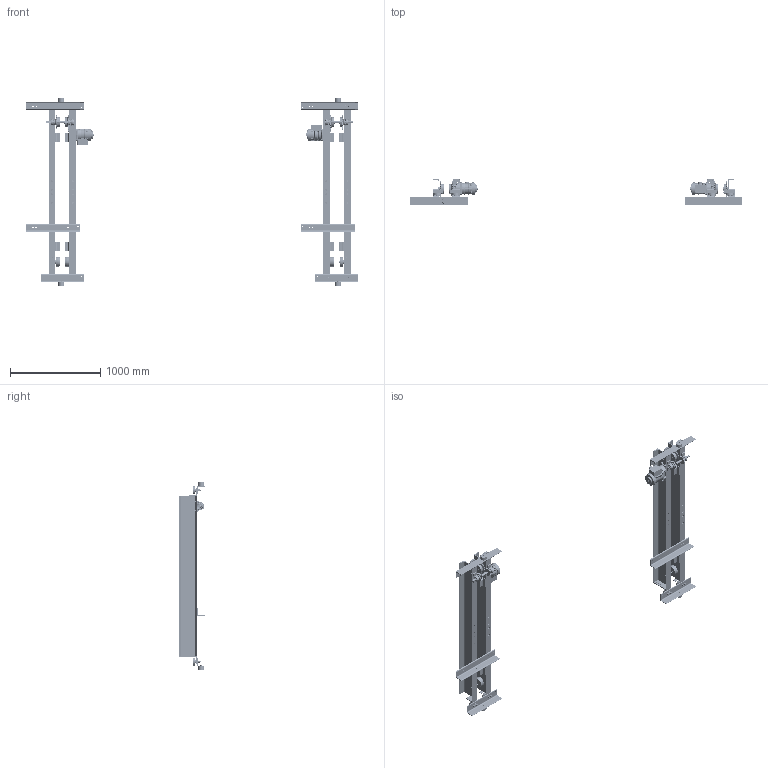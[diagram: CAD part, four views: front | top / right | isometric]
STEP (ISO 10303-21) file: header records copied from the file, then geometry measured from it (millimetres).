
FILE_DESCRIPTION (( 'STEP AP214' ), '1' );
FILE_NAME ('UML-3-0250.STEP', '2026-08-11T15:37:10', ( '' ), ( '' ), 'SwSTEP 2.0', 'SolidWorks 2026', '' );
FILE_SCHEMA (( 'AUTOMOTIVE_DESIGN' ));
Length unit declared in the file: inch
Products named in the file (83): N6QL210207; 9091250_9091250; G1JE025S9603; 9093146_9093146; 9091273_9091273; 9047252_9047252; 6232401; G1CM025L_ROTATED 180 DEGREES; 9093354_9093354; 6232803_6232803; G1JE025S9301; 62367_6236714U; G1JE025S9701; 9047130_9047130; 62607XX_6260703; 6233203; 9047120_9047120; 9047262_B27.7M - 3BM1-62; MS555010_MS555010; 9047125_B27.7M - 3AM1-23; MC08-018.7_70; 9012712_9012712; N6QL210115; 6234702X_6234702B; N6QO3101108_N6QO3101108; N6QO310E9108_N6QO3101108 DOMESTIC; N6QL210209; 9012709_Rectangular section spring washer BS 4464 - 16 (Type B); 62607XX_6260704; G1JE025S9401; 9000605; 9798526_9798526; 9093329_9093329; 6232404; G1JE025S9303; 62587; UML-3-0250; 6234501; G1JE025S9610; N6QL210113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
Assembly tree (366 placements, depth 4):
  UML-3-0250
    62370_6237014U  x2
      62367_6236714U
        MC08-018.7_70
        6232803_6232803
        6232803_6232803
      6232301
      6232304
      5204405_5204405
      6233203
    62369_6236914U
      62366_6236614U
        MC08-018.7_70
        6232803_6232803
        6232803_6232803
      6232301  x2
      6232304  x2
      5204405_5204405  x2
      6233203  x2
      6257004
    62371_6237114U
      62368_6236814U
        MC08-018.7_70
        6232803_6232803
        6232803_6232803
      6232301  x2
      6232304  x2
      5204405_5204405  x2
      6233203  x2
      6257004
    6234701X_6234701B  x2
    6234702X_6234702B  x2
    N6QL210207  x4
    9012514_9012514  x12
    9093101_9093101  x4
    9093424_9093424  x8
    N6QO3101108_N6QO3101108  x8
      N6QO310E9108_N6QO3101108 DOMESTIC
      9047252_9047252
      9000605
    6232404  x8
    9047125_B27.7M - 3AM1-23  x8
    9012515_9012515  x16
    9093433_9093433  x32
    9093146_9093146  x8
    6234501  x4
      6232601_6232601
      9000606
      9047262_B27.7M - 3BM1-62
    6232401  x8
    9047130_9047130  x8
    62608_10" FLANGE B  x2
      62607XX_6260703
    62608_10" FLANGE A  x2
      62607XX_6260704
    N6QL5101101  x4
      N6QL510E9101_Domestic
      9000606
      9047262_B27.7M - 3BM1-62
    N6QL210116  x4
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Bounding box: 3688.26 x 292.1 x 2084.61 mm (x, y, z)
Volume: 44784854.9 mm3; surface area: 9569033.8 mm2
Topology: 391 solids, 487 shells, 25696 faces, 66410 edges, 42744 vertices
Faces by surface type: plane 12440, cylinder 5838, bspline 3746, cone 2598, torus 888, sphere 186
Entity records: 217259 total; most frequent: CARTESIAN_POINT 91438, ORIENTED_EDGE 26022, DIRECTION 23567, EDGE_CURVE 13015, AXIS2_PLACEMENT_3D 9084, VERTEX_POINT 8291, EDGE_LOOP 5586, LINE 5399
